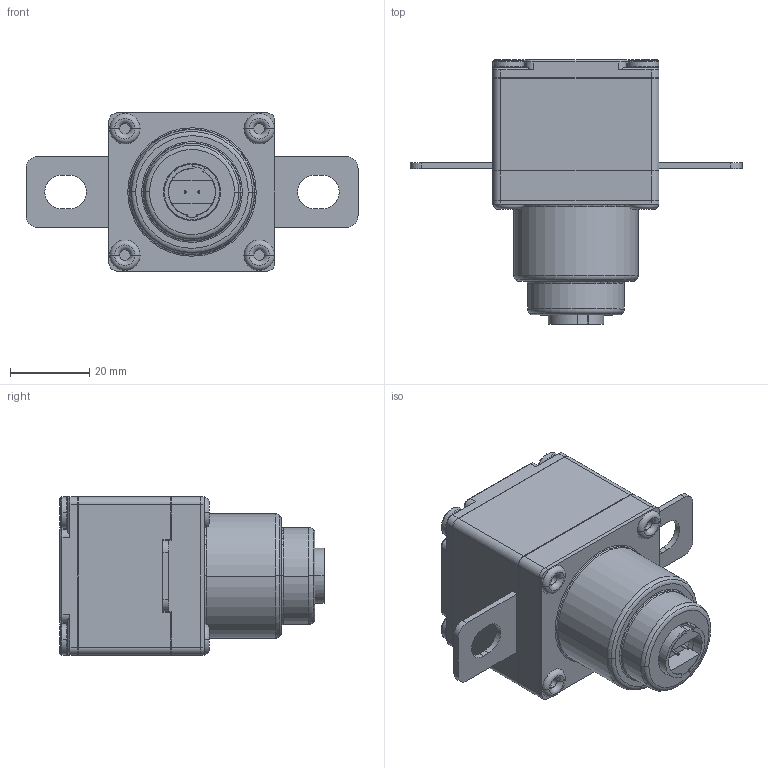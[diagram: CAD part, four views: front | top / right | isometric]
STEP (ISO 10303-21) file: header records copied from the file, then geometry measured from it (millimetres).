
FILE_DESCRIPTION((''),'2;1');
FILE_NAME('PRT0001','2024-01-24T',('1029438'),(''),'PRO/ENGINEER BY PARAMETRIC TECHNOLOGY CORPORATION, 2012310','PRO/ENGINEER BY PARAMETRIC TECHNOLOGY CORPORATION, 2012310','');
FILE_SCHEMA(('CONFIG_CONTROL_DESIGN','SHAPE_APPEARANCE_LAYERS_GROUPS'));
Length unit declared in the file: millimetre
Products named in the file (1): PRT0001
Bounding box: 84 x 66.8 x 40 mm (x, y, z)
Surface area: 13985.2 mm2 (no closed solid volume)
Topology: 0 solids, 15 shells, 238 faces, 667 edges, 439 vertices
Faces by surface type: plane 90, cylinder 72, torus 56, cone 16, sphere 4
Entity records: 11620 total; most frequent: DIRECTION 1487, CARTESIAN_POINT 1361, ORIENTED_EDGE 1195, PRESENTATION_STYLE_ASSIGNMENT 845, STYLED_ITEM 673, CURVE_STYLE 663, EDGE_CURVE 663, AXIS2_PLACEMENT_3D 594
